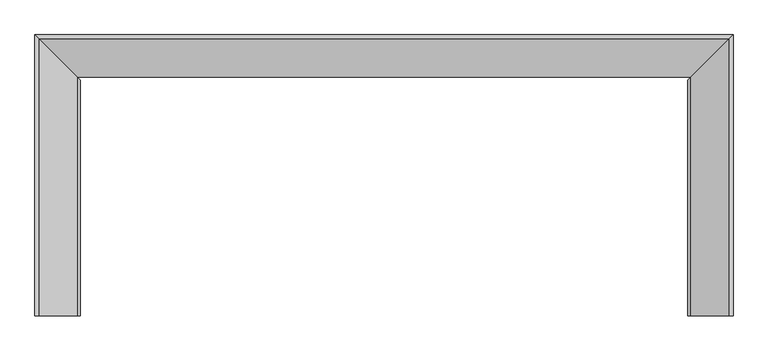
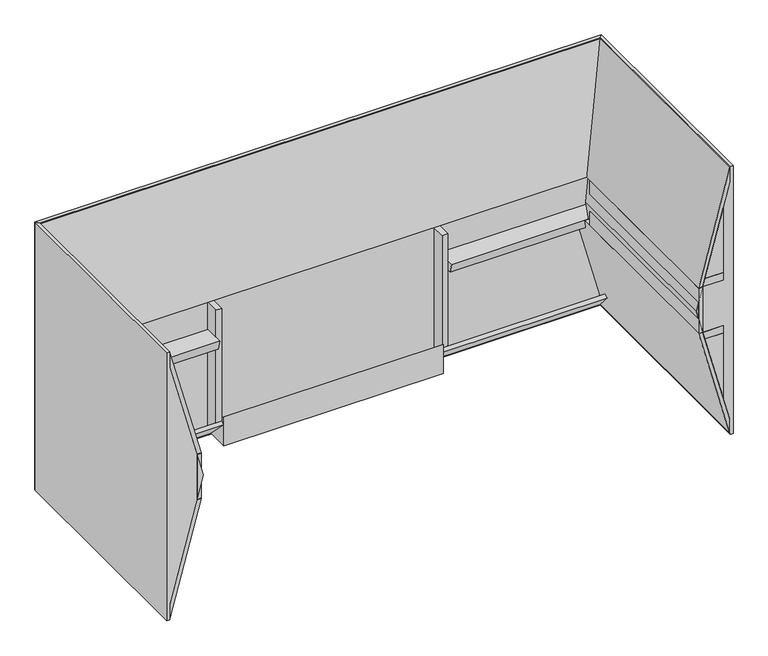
"""IFC4 building model written with IfcOpenShell, lengths in millimetres: proxy geometry, AERO^OFFICE 3_36x72 FIXED PANEL DESK-PARTS SOLID."""

import ifcopenshell
import ifcopenshell.guid

model = None  # the IFC model being written
_history = None  # IfcOwnerHistory: only IFC2X3 demands one
_inside = {}  # id of a spatial element -> (the spatial element, [elements in it])
_under = {}  # id of a project, library or spatial element -> (it, [spatial elements below it])
_declared = {}  # id of a project -> (the project, [libraries it declares])
_typed = {}  # id of a type object -> (the type object, [elements of that type])
_made_of = {}  # id of a material, layer set ... -> (it, [elements and type objects made of it])


def new_model(schema):
    """Start an empty IFC model of exactly this schema.

    Asked for "IFC4X3", IfcOpenShell would pick the latest addendum, in which some entities
    have other attributes; the version numbers below select the first issue.
    IFC2X3 requires an IfcOwnerHistory on every rooted entity: one is made here for all.
    """
    global model, _history
    if schema == "IFC4X3":
        model = ifcopenshell.file(schema_version=(4, 3, 0, 0))
    else:
        model = ifcopenshell.file(schema=schema)
    _inside.clear()
    _under.clear()
    _declared.clear()
    _typed.clear()
    _made_of.clear()
    _history = None
    if model.schema == "IFC2X3":
        org = make("IfcOrganization", Name="unknown")
        user = make(
            "IfcPersonAndOrganization",
            ThePerson=make("IfcPerson", FamilyName="unknown"),
            TheOrganization=org,
        )
        app = make(
            "IfcApplication",
            ApplicationDeveloper=org,
            Version="unknown",
            ApplicationFullName="unknown",
            ApplicationIdentifier="unknown",
        )
        _history = make(
            "IfcOwnerHistory",
            OwningUser=user,
            OwningApplication=app,
            ChangeAction="ADDED",
            CreationDate=0,
        )
    return model


def make(cls, **values):
    """One entity of the class cls with the attributes given. An attribute that is None is left unset."""
    return model.create_entity(
        cls, **{name: value for name, value in values.items() if value is not None}
    )


def rooted(cls, **values):
    """An entity with a GlobalId (a new one), such as an element, a storey or a relation."""
    return make(cls, GlobalId=ifcopenshell.guid.new(), OwnerHistory=_history, **values)


def si_unit(unit_type, name, prefix=None):
    """IfcSIUnit, for example si_unit("LENGTHUNIT", "METRE", prefix="MILLI")."""
    return make("IfcSIUnit", UnitType=unit_type, Prefix=prefix, Name=name)


def assignment(units):
    """IfcUnitAssignment: the units of a project."""
    return None if units is None else make("IfcUnitAssignment", Units=units)


def point(xyz):
    """IfcCartesianPoint."""
    return None if xyz is None else make("IfcCartesianPoint", Coordinates=xyz)


def direction(xyz):
    """IfcDirection."""
    return None if xyz is None else make("IfcDirection", DirectionRatios=xyz)


def frame(location, z_axis=None, x_axis=None):
    """IfcAxis2Placement3D, a coordinate frame: its origin and axes. An axis left out is left unset."""
    return make(
        "IfcAxis2Placement3D",
        Location=point(location),
        Axis=direction(z_axis),
        RefDirection=direction(x_axis),
    )


def origin():
    """The frame at (0, 0, 0) with its axes left unset."""
    return frame((0.0, 0.0, 0.0))


def place(relative_to, where):
    """IfcLocalPlacement: puts the frame where relative to a parent placement (None: the world)."""
    return make(
        "IfcLocalPlacement", PlacementRelTo=relative_to, RelativePlacement=where
    )


def context(
    kind, dimensions, precision=None, world=None, true_north=None, identifier=None
):
    """IfcGeometricRepresentationContext, for example the 3D "Model" context."""
    return make(
        "IfcGeometricRepresentationContext",
        ContextIdentifier=identifier,
        ContextType=kind,
        CoordinateSpaceDimension=dimensions,
        Precision=precision,
        WorldCoordinateSystem=world,
        TrueNorth=true_north,
    )


def project(units=None, contexts=None):
    """IfcProject with its units and contexts."""
    return rooted(
        "IfcProject",
        Name="project",
        RepresentationContexts=contexts,
        UnitsInContext=assignment(units),
    )


def spatial(cls, under=None, at=None, **own):
    """A site, building, storey or space (cls), placed at a placement, below another one or the project."""
    s = rooted(cls, ObjectPlacement=at, **own)
    if under is not None:
        _under.setdefault(under.id(), (under, []))[1].append(s)
    return s


def polyline(points):
    """IfcPolyline through the points."""
    return make("IfcPolyline", Points=[point(p) for p in points])


def outline(outer, holes=None, kind="AREA"):
    """IfcArbitraryClosedProfileDef: a profile drawn as a closed curve; with holes, ...WithVoids."""
    if holes is None:
        return make("IfcArbitraryClosedProfileDef", ProfileType=kind, OuterCurve=outer)
    return make(
        "IfcArbitraryProfileDefWithVoids",
        ProfileType=kind,
        OuterCurve=outer,
        InnerCurves=holes,
    )


def extrude(swept, where, along, depth):
    """IfcExtrudedAreaSolid: the profile swept, set in the frame where, extruded along a direction by depth."""
    return make(
        "IfcExtrudedAreaSolid",
        SweptArea=swept,
        Position=where,
        ExtrudedDirection=direction(along),
        Depth=depth,
    )


def faces_of(points, faces, orient=None, outer=None):
    """IfcFace entities. A face is a list of loops; a loop is a list of indices into points, from 0.

    orient and outer hold one flag for each loop. By default every Orientation is true, the
    first loop of a face is its IfcFaceOuterBound and the others are IfcFaceBound.
    """
    made = []
    for i, loops in enumerate(faces):
        bounds = []
        for j, loop in enumerate(loops):
            is_outer = j == 0 if outer is None else outer[i][j]
            bounds.append(
                make(
                    "IfcFaceOuterBound" if is_outer else "IfcFaceBound",
                    Bound=make("IfcPolyLoop", Polygon=[points[k] for k in loop]),
                    Orientation=True if orient is None else orient[i][j],
                )
            )
        made.append(make("IfcFace", Bounds=bounds))
    return made


def faceted_brep(points, faces, orient=None, outer=None, voids=None):
    """IfcFacetedBrep: a solid bounded by flat faces; with voids (closed shells), ...WithVoids."""
    shared = [point(p) for p in points]
    hull = make("IfcClosedShell", CfsFaces=faces_of(shared, faces, orient, outer))
    if voids is None:
        return make("IfcFacetedBrep", Outer=hull)
    return make(
        "IfcFacetedBrepWithVoids",
        Outer=hull,
        Voids=[
            make(cls, CfsFaces=faces_of(shared, fs, o, b)) for cls, fs, o, b in voids
        ],
    )


def shape(context_of_items, identifier, shape_type, items):
    """IfcShapeRepresentation: the items that make up one representation, for example the "Body"."""
    return make(
        "IfcShapeRepresentation",
        ContextOfItems=context_of_items,
        RepresentationIdentifier=identifier,
        RepresentationType=shape_type,
        Items=items,
    )


def source(mapping_origin, context_of_items, identifier, shape_type, items):
    """IfcRepresentationMap: a shape defined once, which mapped items show again and again."""
    return make(
        "IfcRepresentationMap",
        MappingOrigin=mapping_origin,
        MappedRepresentation=shape(context_of_items, identifier, shape_type, items),
    )


def transform(
    local_origin,
    x_axis=None,
    y_axis=None,
    z_axis=None,
    scale=None,
    scale2=None,
    scale3=None,
    uniform=True,
):
    """IfcCartesianTransformationOperator3D, or its non-uniform kind. x_axis, y_axis, z_axis: its Axis1, 2, 3."""
    if uniform:
        return make(
            "IfcCartesianTransformationOperator3D",
            Axis1=direction(x_axis),
            Axis2=direction(y_axis),
            LocalOrigin=point(local_origin),
            Scale=scale,
            Axis3=direction(z_axis),
        )
    return make(
        "IfcCartesianTransformationOperator3DnonUniform",
        Axis1=direction(x_axis),
        Axis2=direction(y_axis),
        LocalOrigin=point(local_origin),
        Scale=scale,
        Axis3=direction(z_axis),
        Scale2=scale2,
        Scale3=scale3,
    )


def mapped(mapping_source, mapping_target):
    """IfcMappedItem: shows the shape of a source again, moved by a transform."""
    return make(
        "IfcMappedItem", MappingSource=mapping_source, MappingTarget=mapping_target
    )


def made_of(thing, what):
    """Note that an element or type object is made of a material, layer set ...; save() writes the relation."""
    if what is not None:
        _made_of.setdefault(what.id(), (what, []))[1].append(thing)
    return thing


def element(
    cls,
    number,
    at=None,
    inside=None,
    cuts=None,
    type_object=None,
    material=None,
    context=None,
    identifier="Body",
    shape_type=None,
    held_by="IfcProductDefinitionShape",
    body=None,
    shapes=None,
    **own,
):
    """One element of the class cls, such as IfcWall. Its Tag is "e" and its number.

    at: its placement. inside: the storey or other place that contains it. cuts: it is an
    opening in that element (IfcRelVoidsElement). A single representation is given by context,
    identifier, shape_type and body (its items); several are given by shapes. held_by: the class
    of the entity that holds the representations. save() writes the other relations.
    """
    e = rooted(cls, Tag="e%d" % number, ObjectPlacement=at, **own)
    if body is not None:
        shapes = [shape(context, identifier, shape_type, body)]
    if shapes is not None:
        e.Representation = make(held_by, Representations=shapes)
    if inside is not None:
        _inside.setdefault(inside.id(), (inside, []))[1].append(e)
    if cuts is not None:
        rooted(
            "IfcRelVoidsElement", RelatingBuildingElement=cuts, RelatedOpeningElement=e
        )
    if type_object is not None:
        _typed.setdefault(type_object.id(), (type_object, []))[1].append(e)
    return made_of(e, material)


def aggregate(whole, parts):
    """IfcRelAggregates: a whole, such as a stair, and the parts it consists of."""
    return rooted("IfcRelAggregates", RelatingObject=whole, RelatedObjects=parts)


def save(model, path):
    """Write the relations noted so far, then the file.

    IfcRelAggregates (storeys below a building ...), IfcRelContainedInSpatialStructure (elements
    in a storey), IfcRelDefinesByType, IfcRelAssociatesMaterial and IfcRelDeclares: one each for
    every whole, place, type object, material and project.
    """
    for whole, parts in _under.values():
        aggregate(whole, parts)
    for where, things in _inside.values():
        rooted(
            "IfcRelContainedInSpatialStructure",
            RelatedElements=things,
            RelatingStructure=where,
        )
    for kind, things in _typed.values():
        rooted("IfcRelDefinesByType", RelatedObjects=things, RelatingType=kind)
    for what, things in _made_of.values():
        rooted("IfcRelAssociatesMaterial", RelatedObjects=things, RelatingMaterial=what)
    for by, libraries in _declared.values():
        rooted("IfcRelDeclares", RelatingContext=by, RelatedDefinitions=libraries)
    model.write(path)


def generic_models_e3df8aa0(model_context):
    return source(origin(), model_context, "Body", "SolidModel", [
        faceted_brep([(10.3467505, -704.85, -52.1358465), (118.8833633, -704.85, -457.2), (118.8833633, -87.1333633, -457.2), (10.3467505, 21.4032495, -52.1358465), (10.3467505, 21.4032495, -862.2641535), (10.3467505, 21.4032495, -911.3331855), (9.525, 22.225, -914.4), (0.0, 31.75, -914.4), (0.0, 31.75, 0.0), (9.525, 22.225, 0.0), (10.3467505, 21.4032495, -3.0668145), (0.0, -704.85, 0.0), (0.0, -704.85, -914.4), (9.525, -704.85, -914.4), (10.3467505, -704.85, -911.3331855), (10.3467505, -704.85, -862.2641535), (10.3467505, -704.85, -3.0668145), (9.525, -704.85, 0.0)], [[[0, 1, 2, 3]], [[3, 2, 4, 5, 6, 7, 8, 9, 10]], [[11, 12, 13, 14, 15, 1, 0, 16, 17]], [[5, 4, 15, 14]], [[1, 15, 4, 2]], [[3, 10, 16, 0]], [[5, 14, 13, 6]], [[16, 10, 9, 17]], [[17, 9, 8, 11]], [[8, 7, 12, 11]], [[6, 13, 12, 7]]]),
        extrude(outline(polyline([(-353.776362, 1737.628917), (-379.176362, 1730.8230075), (-379.176362, 1797.05), (-353.776362, 1797.05), (-353.776362, 1737.628917)])), frame((0.0, -704.85, 0.0), z_axis=(0.0, 1.0, 0.0), x_axis=(0.0, 0.0, 1.0)), (0.0, 0.0, 1.0), 638.175),
        faceted_brep([(89.4696056, 21.4032495, -566.973638), (10.3467505, 21.4032495, -862.2641535), (10.3467505, -704.85, -862.2641535), (97.9769925, -704.85, -535.223638), (97.9769925, -66.675, -535.223638), (89.4696056, -57.7196056, -566.973638), (102.6176131, -57.7196056, -566.973638), (102.6176131, 21.4032495, -566.973638), (111.125, -66.675, -535.223638), (111.125, -704.85, -535.223638), (10.3467505, -704.85, -911.3331855), (10.3467505, 21.4032495, -911.3331855)], [[[0, 1, 2, 3, 4, 5]], [[0, 5, 6, 7]], [[5, 4, 8, 6]], [[7, 6, 8, 9, 10, 11]], [[11, 1, 0, 7]], [[11, 10, 2, 1]], [[8, 4, 3, 9]], [[2, 10, 9, 3]]]),
        extrude(outline(polyline([(-57.7196056, -566.973638), (-66.675, -535.223638), (0.0, -535.223638), (0.0, -566.973638), (-57.7196056, -566.973638)])), frame((1289.05, 0.0, 0.0), z_axis=(1.0, 0.0, 0.0), x_axis=(0.0, 1.0, 0.0)), (0.0, 0.0, 1.0), 508.0),
        extrude(outline(polyline([(-353.776362, 1737.628917), (-353.776362, 1797.05), (-132.0138612, 1797.05), (-353.776362, 1737.628917)])), frame((0.0, -704.85, 0.0), z_axis=(0.0, 1.0, 0.0), x_axis=(0.0, 0.0, 1.0)), (0.0, 0.0, 1.0), 19.05),
        extrude(outline(polyline([(0.0, -442.676362), (0.0, -871.9694237), (-44.9947439, -826.9746798), (-44.9947439, -442.676362), (0.0, -442.676362)])), frame((539.75, 0.0, 0.0), z_axis=(1.0, 0.0, 0.0), x_axis=(0.0, 1.0, 0.0)), (0.0, 0.0, 1.0), 19.05),
        extrude(outline(polyline([(0.0, -871.9694237), (-44.9947439, -826.9746798), (-44.9947439, -442.676362), (0.0, -442.676362), (0.0, -871.9694237)])), frame((1270.0, 0.0, 0.0), z_axis=(1.0, 0.0, 0.0), x_axis=(0.0, 1.0, 0.0)), (0.0, 0.0, 1.0), 19.05),
        faceted_brep([(1739.3303944, 21.4032495, -347.426362), (1818.4532495, 21.4032495, -52.1358465), (1818.4532495, -704.85, -52.1358465), (1730.8230075, -704.85, -379.176362), (1730.8230075, -66.2269925, -379.176362), (1739.3303944, -57.7196056, -347.426362), (1726.1823869, -57.7196056, -347.426362), (1726.1823869, 21.4032495, -347.426362), (1717.675, -66.2269925, -379.176362), (1717.675, -704.85, -379.176362), (1818.4532495, -704.85, -3.0668145), (1818.4532495, 21.4032495, -3.0668145)], [[[0, 1, 2, 3, 4, 5]], [[0, 5, 6, 7]], [[7, 6, 8, 9, 10, 11]], [[5, 4, 8, 6]], [[8, 4, 3, 9]], [[11, 1, 0, 7]], [[11, 10, 2, 1]], [[2, 10, 9, 3]]]),
        extrude(outline(polyline([(-560.623638, 91.171083), (-535.223638, 97.9769925), (-535.223638, 31.75), (-560.623638, 31.75), (-560.623638, 91.171083)])), frame((0.0, -704.85, 0.0), z_axis=(0.0, 1.0, 0.0), x_axis=(0.0, 0.0, 1.0)), (0.0, 0.0, 1.0), 638.175),
        extrude(outline(polyline([(-132.0138612, 31.75), (-353.776362, 31.75), (-353.776362, 91.171083), (-132.0138612, 31.75)])), frame((0.0, -704.85, 0.0), z_axis=(0.0, 1.0, 0.0), x_axis=(0.0, 0.0, 1.0)), (0.0, 0.0, 1.0), 19.05),
        extrude(outline(polyline([(-560.623638, 1797.05), (-560.623638, 1737.628917), (-782.3861388, 1797.05), (-560.623638, 1797.05)])), frame((0.0, -704.85, 0.0), z_axis=(0.0, 1.0, 0.0), x_axis=(0.0, 0.0, 1.0)), (0.0, 0.0, 1.0), 19.05),
        faceted_brep([(10.3467505, 21.4032495, -52.1358465), (89.4696056, 21.4032495, -347.426362), (89.4696056, -57.7196056, -347.426362), (97.9769925, -66.2269925, -379.176362), (97.9769925, -704.85, -379.176362), (10.3467505, -704.85, -52.1358465), (102.6176131, 21.4032495, -347.426362), (102.6176131, -57.7196056, -347.426362), (111.125, -66.2269925, -379.176362), (111.125, -704.85, -379.176362), (10.3467505, 21.4032495, -3.0668145), (10.3467505, -704.85, -3.0668145)], [[[0, 1, 2, 3, 4, 5]], [[6, 7, 2, 1]], [[7, 8, 3, 2]], [[3, 8, 9, 4]], [[7, 6, 10, 11, 9, 8]], [[5, 11, 10, 0]], [[10, 6, 1, 0]], [[9, 11, 5, 4]]]),
        faceted_brep([(1805.305242, 21.4032495, -52.1358465), (1717.675, -66.2269925, -379.176362), (111.125, -66.2269925, -379.176362), (23.494758, 21.4032495, -52.1358465), (1717.675, -79.375, -379.176362), (111.125, -79.375, -379.176362), (1818.4532495, 21.4032495, -3.0668145), (10.3467505, 21.4032495, -3.0668145)], [[[0, 1, 2, 3]], [[1, 4, 5, 2]], [[4, 6, 7, 5]], [[6, 0, 3, 7]], [[2, 5, 7, 3]], [[4, 1, 0, 6]]]),
        extrude(outline(polyline([(-560.623638, 31.75), (-782.3861388, 31.75), (-560.623638, 91.171083), (-560.623638, 31.75)])), frame((0.0, -704.85, 0.0), z_axis=(0.0, 1.0, 0.0), x_axis=(0.0, 0.0, 1.0)), (0.0, 0.0, 1.0), 19.05),
        extrude(outline(polyline([(-353.776362, 31.75), (-379.176362, 31.75), (-379.176362, 97.9769925), (-353.776362, 91.171083), (-353.776362, 31.75)])), frame((0.0, -704.85, 0.0), z_axis=(0.0, 1.0, 0.0), x_axis=(0.0, 0.0, 1.0)), (0.0, 0.0, 1.0), 638.175),
        extrude(outline(polyline([(-560.623638, 1797.05), (-535.223638, 1797.05), (-535.223638, 1730.8230075), (-560.623638, 1737.628917), (-560.623638, 1797.05)])), frame((0.0, -704.85, 0.0), z_axis=(0.0, 1.0, 0.0), x_axis=(0.0, 0.0, 1.0)), (0.0, 0.0, 1.0), 638.175),
        extrude(outline(polyline([(-53.975, -908.1581855), (-53.975, -809.0141676), (19.8157495, -882.8049171), (19.8157495, -908.1581855), (-53.975, -908.1581855)])), frame((560.3875, 0.0, 0.0), z_axis=(1.0, 0.0, 0.0), x_axis=(0.0, 1.0, 0.0)), (0.0, 0.0, 1.0), 708.025),
        extrude(outline(polyline([(111.125, -704.85), (98.425, -704.85), (98.425, -95.25), (111.125, -95.25), (111.125, -704.85)])), frame((0.0, 0.0, -533.636138), z_axis=(0.0, 0.0, 1.0), x_axis=(1.0, 0.0, 0.0)), (0.0, 0.0, 1.0), 152.8722759),
        extrude(outline(polyline([(1730.375, -704.85), (1717.675, -704.85), (1717.675, -95.25), (1730.375, -95.25), (1730.375, -704.85)])), frame((0.0, 0.0, -533.636138), z_axis=(0.0, 0.0, 1.0), x_axis=(1.0, 0.0, 0.0)), (0.0, 0.0, 1.0), 152.8722759),
        faceted_brep([(1818.4532495, 21.4032495, -911.3331855), (1798.2557084, -53.975, -835.954936), (1270.0, -53.975, -835.954936), (1270.0, 21.4032495, -911.3331855), (1795.8494561, -44.9947439, -826.9746798), (1270.0, -44.9947439, -826.9746798), (1813.6407448, 21.4032495, -893.3726733), (1270.0, 21.4032495, -893.3726733)], [[[0, 1, 2, 3]], [[1, 4, 5, 2]], [[4, 6, 7, 5]], [[6, 0, 3, 7]], [[3, 2, 5, 7]], [[4, 1, 0, 6]]]),
        faceted_brep([(1818.4532495, 21.4032495, -52.1358465), (1709.9166367, -87.1333633, -457.2), (1709.9166367, -704.85, -457.2), (1818.4532495, -704.85, -52.1358465), (1818.4532495, -704.85, -862.2641535), (1818.4532495, -704.85, -911.3331855), (1819.275, -704.85, -914.4), (1828.8, -704.85, -914.4), (1828.8, -704.85, 0.0), (1819.275, -704.85, 0.0), (1818.4532495, -704.85, -3.0668145), (1818.4532495, 21.4032495, -862.2641535), (1818.4532495, 21.4032495, -911.3331855), (1818.4532495, 21.4032495, -3.0668145), (1819.275, 22.225, 0.0), (1828.8, 31.75, 0.0), (1828.8, 31.75, -914.4), (1819.275, 22.225, -914.4)], [[[0, 1, 2, 3]], [[3, 2, 4, 5, 6, 7, 8, 9, 10]], [[5, 4, 11, 12]], [[1, 11, 4, 2]], [[1, 0, 13, 14, 15, 16, 17, 12, 11]], [[3, 10, 13, 0]], [[13, 10, 9, 14]], [[5, 12, 17, 6]], [[6, 17, 16, 7]], [[16, 15, 8, 7]], [[14, 9, 8, 15]]]),
        extrude(outline(polyline([(0.0, -347.426362), (0.0, -379.176362), (-66.2269925, -379.176362), (-57.7196056, -347.426362), (0.0, -347.426362)])), frame((31.75, 0.0, 0.0), z_axis=(1.0, 0.0, 0.0), x_axis=(0.0, 1.0, 0.0)), (0.0, 0.0, 1.0), 1765.3),
        extrude(outline(polyline([(-66.675, -535.223638), (0.0, -535.223638), (0.0, -566.973638), (-57.7196056, -566.973638), (-66.675, -535.223638)])), frame((31.75, 0.0, 0.0), z_axis=(1.0, 0.0, 0.0), x_axis=(0.0, 1.0, 0.0)), (0.0, 0.0, 1.0), 508.0),
        faceted_brep([(102.6176131, 0.0, -566.973638), (89.4696056, 0.0, -566.973638), (89.4696056, 9.525, -566.973638), (102.6176131, 9.525, -566.973638), (31.75, 0.0, -782.3861388), (10.3467505, 21.4032495, -862.2641535), (31.75, 21.4032495, -782.3861388), (31.75, 9.525, -782.3861388), (44.8980075, 9.525, -782.3861388), (44.8980075, 21.4032495, -782.3861388), (15.1592552, 21.4032495, -893.3726733), (20.8942386, 0.0, -871.9694237), (1739.3303944, 0.0, -566.973638), (1726.1823869, 0.0, -566.973638), (1726.1823869, 9.525, -566.973638), (1739.3303944, 9.525, -566.973638), (1797.05, 9.525, -782.3861388), (1797.05, 21.4032495, -782.3861388), (1818.4532495, 21.4032495, -862.2641535), (1797.05, 0.0, -782.3861388), (1783.9019925, 9.525, -782.3861388), (1726.1823869, 0.0, -347.426362), (1739.3303944, 0.0, -347.426362), (1739.3303944, 9.525, -347.426362), (1726.1823869, 9.525, -347.426362), (1783.9019925, 9.525, -132.0138612), (1783.9019925, 21.4032495, -132.0138612), (1805.305242, 21.4032495, -52.1358465), (1783.9019925, 0.0, -132.0138612), (1797.05, 9.525, -132.0138612), (1797.05, 0.0, -132.0138612), (1818.4532495, 21.4032495, -52.1358465), (1797.05, 21.4032495, -132.0138612), (89.4696056, 0.0, -347.426362), (102.6176131, 0.0, -347.426362), (102.6176131, 9.525, -347.426362), (89.4696056, 9.525, -347.426362), (558.8, 0.0, -862.9891676), (558.8, 21.4032495, -884.3924171), (1270.0, 21.4032495, -884.3924171), (1270.0, 0.0, -862.9891676), (1270.0, 21.4032495, -893.3726733), (1270.0, 0.0, -871.9694237), (558.8, 0.0, -871.9694237), (558.8, 21.4032495, -893.3726733), (1813.6407448, 21.4032495, -893.3726733), (1807.9057614, 0.0, -871.9694237), (31.75, 9.525, -132.0138612), (44.8980075, 9.525, -132.0138612), (44.8980075, 21.4032495, -132.0138612), (31.75, 21.4032495, -132.0138612), (23.494758, 21.4032495, -52.1358465), (44.8980075, 0.0, -132.0138612), (10.3467505, 21.4032495, -52.1358465), (31.75, 0.0, -132.0138612), (1783.9019925, 21.4032495, -782.3861388), (10.3467505, 21.4032495, -911.3331855), (1818.4532495, 21.4032495, -911.3331855), (1819.275, 22.225, -914.4), (1828.8, 31.75, -914.4), (1828.8, 31.75, 0.0), (1819.275, 22.225, 0.0), (1818.4532495, 21.4032495, -3.0668145), (10.3467505, 21.4032495, -3.0668145), (9.525, 22.225, 0.0), (9.525, 22.225, -914.4), (0.0, 31.75, 0.0), (0.0, 31.75, -914.4)], [[[0, 1, 2, 3]], [[2, 1, 4, 5, 6, 7]], [[0, 3, 8, 9, 10, 11]], [[12, 13, 14, 15]], [[12, 15, 16, 17, 18, 19]], [[15, 14, 20, 16]], [[21, 22, 23, 24]], [[21, 24, 25, 26, 27, 28]], [[24, 23, 29, 25]], [[23, 22, 30, 31, 32, 29]], [[33, 34, 35, 36]], [[37, 38, 39, 40]], [[39, 41, 42, 40]], [[38, 37, 43, 44]], [[42, 41, 45, 46]], [[44, 43, 11, 10]], [[8, 7, 6, 9]], [[47, 48, 49, 50]], [[51, 52, 28, 27]], [[35, 34, 52, 51, 49, 48]], [[33, 36, 47, 50, 53, 54]], [[36, 35, 48, 47]], [[3, 2, 7, 8]], [[16, 20, 55, 17]], [[14, 13, 46, 45, 55, 20]], [[10, 9, 6, 5, 56, 57, 18, 17, 55, 45, 41, 39, 38, 44]], [[40, 42, 46, 13, 12, 19, 30, 22, 21, 28, 52, 34, 33, 54, 4, 1, 0, 11, 43, 37]], [[19, 18, 57, 58, 59, 60, 61, 62, 31, 30]], [[25, 29, 32, 26]], [[62, 63, 53, 50, 49, 51, 27, 26, 32, 31]], [[63, 62, 61, 64]], [[57, 56, 65, 58]], [[5, 4, 54, 53, 63, 64, 66, 67, 65, 56]], [[64, 61, 60, 66]], [[58, 65, 67, 59]], [[60, 59, 67, 66]]]),
        faceted_brep([(10.3467505, 21.4032495, -911.3331855), (15.1592552, 21.4032495, -893.3726733), (558.8, 21.4032495, -893.3726733), (558.8, 21.4032495, -911.3331855), (32.9505439, -44.9947439, -826.9746798), (558.8, -44.9947439, -826.9746798), (30.5442916, -53.975, -835.954936), (558.8, -53.975, -835.954936)], [[[0, 1, 2, 3]], [[1, 4, 5, 2]], [[4, 6, 7, 5]], [[6, 0, 3, 7]], [[3, 2, 5, 7]], [[4, 1, 0, 6]]]),
        faceted_brep([(1818.4532495, 21.4032495, -862.2641535), (1739.3303944, 21.4032495, -566.973638), (1739.3303944, -57.7196056, -566.973638), (1730.8230075, -66.675, -535.223638), (1730.8230075, -704.85, -535.223638), (1818.4532495, -704.85, -862.2641535), (1726.1823869, 21.4032495, -566.973638), (1818.4532495, 21.4032495, -911.3331855), (1818.4532495, -704.85, -911.3331855), (1717.675, -704.85, -535.223638), (1717.675, -66.675, -535.223638), (1726.1823869, -57.7196056, -566.973638)], [[[0, 1, 2, 3, 4, 5]], [[6, 7, 8, 9, 10, 11]], [[6, 11, 2, 1]], [[11, 10, 3, 2]], [[1, 0, 7, 6]], [[3, 10, 9, 4]], [[7, 0, 5, 8]], [[4, 9, 8, 5]]]),
    ])


if __name__ == "__main__":
    model = new_model("IFC4")
    model_context = context("Model", 3, world=origin())
    ifc_project = project(units=[si_unit("LENGTHUNIT", "METRE", prefix="MILLI")], contexts=[model_context])
    site = spatial("IfcSite", under=ifc_project)
    building = spatial("IfcBuilding", under=site)
    placement = place(None, origin())
    generic_models_shape = generic_models_e3df8aa0(model_context)
    element("IfcBuildingElementProxy", 1, Name="AERO^OFFICE 3_36x72 FIXED PANEL DESK-PARTS SOLID", ObjectType="AERO^OFFICE 3_36x72 FIXED PANEL DESK-PARTS SOLID", at=placement, inside=building, context=model_context, shape_type="MappedRepresentation", body=[
        mapped(generic_models_shape, transform((0.0, 0.0, 0.0), x_axis=(1.0, 0.0, 0.0), y_axis=(0.0, 1.0, 0.0), z_axis=(0.0, 0.0, 1.0))),
    ])
    save(model, "model.ifc")
